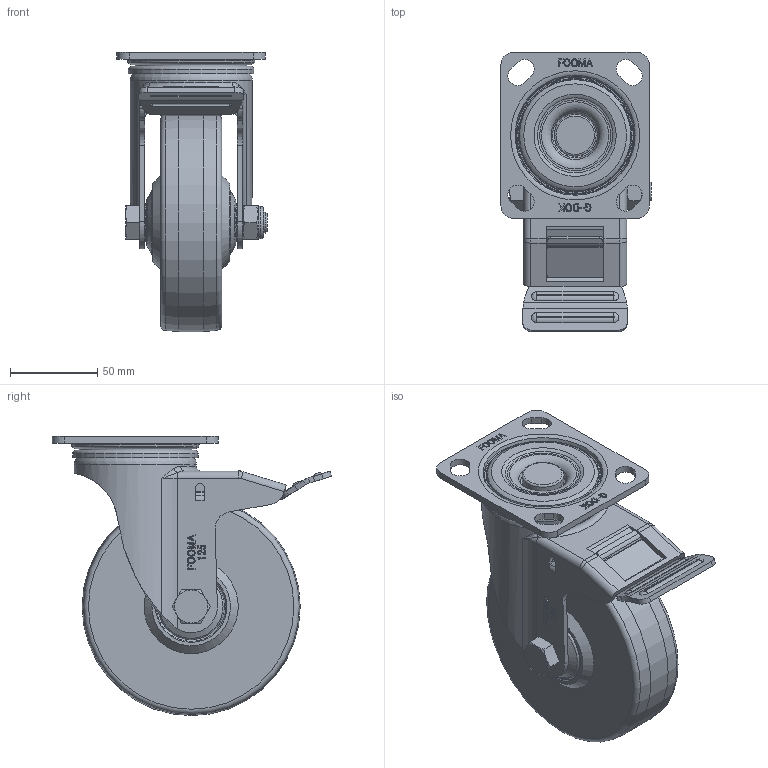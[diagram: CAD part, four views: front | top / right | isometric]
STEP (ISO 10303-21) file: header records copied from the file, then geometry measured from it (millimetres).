
FILE_DESCRIPTION(/* description */ (''),/* implementation_level */ '2;1');
FILE_NAME(/* name */ 'E:\★.DWG\★개발도면\PLM-SERIES(경중하중)-2016\홈페이지용\STEP\PLM-125-BSF-MCD.stp',/* time_stamp */ '2018-02-20T17:54:28+09:00',/* author */ ('장용하'),/* organization */ (''),/* preprocessor_version */ 'ST-DEVELOPER v16.13',/* originating_system */ 'Autodesk Inventor 2018',/* authorisation */ '');
FILE_SCHEMA (('AUTOMOTIVE_DESIGN { 1 0 10303 214 3 1 1 }'));
Length unit declared in the file: millimetre
Products named in the file (1): PLM-125-BSF-MCD ASSY_Shrinkwrap_1
Bounding box: 86 x 159.94 x 160 mm (x, y, z)
Volume: 572487.8 mm3; surface area: 105748.7 mm2
Topology: 2 solids, 2 shells, 862 faces, 2272 edges, 1467 vertices
Faces by surface type: plane 462, bspline 206, cylinder 107, torus 59, cone 28
Full cylindrical faces by diameter (mm): 12 x1, 18.5 x1, 22 x4, 24 x1, 24.4 x1, 36 x2, 38 x2, 40 x2, 53.029 x1, 54.5 x1, 64 x1, 64.418 x2, 70 x1, 70.6 x1, 72 x1, 125 x1
Entity records: 28500 total; most frequent: CARTESIAN_POINT 7713, ORIENTED_EDGE 4350, DIRECTION 3640, EDGE_CURVE 2173, VERTEX_POINT 1450, AXIS2_PLACEMENT_3D 1255, LINE 1130, VECTOR 1130
